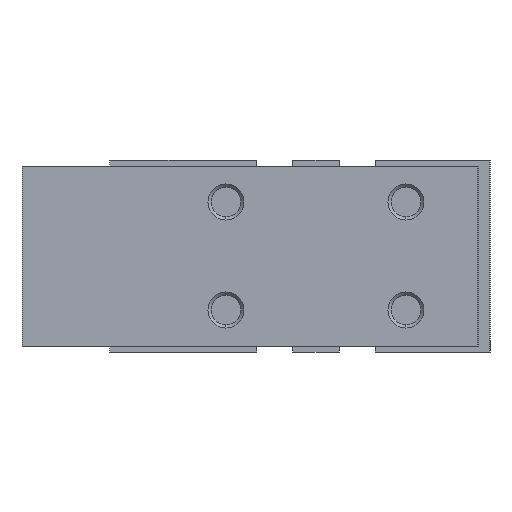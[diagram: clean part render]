
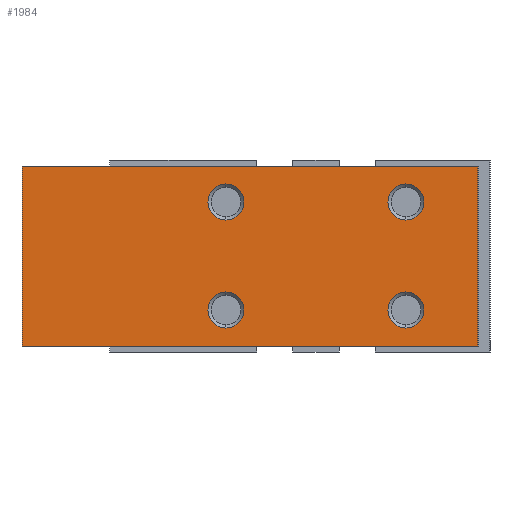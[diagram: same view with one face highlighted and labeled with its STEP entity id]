
A CAD part, left-side view. The second image highlights one B-rep face of the part: STEP entity #1984.
In plain terms, the highlighted planar face has unit normal (-1, 0, 0).
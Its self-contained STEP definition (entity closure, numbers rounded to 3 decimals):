
#174 = VERTEX_POINT ( 'NONE', #1343 ) ;
#200 = DIRECTION ( 'NONE',  ( -1., 0., 0. ) ) ;
#246 = AXIS2_PLACEMENT_3D ( 'NONE', #5130, #4641, #3161 ) ;
#358 = CARTESIAN_POINT ( 'NONE',  ( -8.5, 7.5, -6. ) ) ;
#393 = EDGE_CURVE ( 'NONE', #2240, #3478, #5718, .T. ) ;
#480 = VECTOR ( 'NONE', #819, 1000. ) ;
#506 = ORIENTED_EDGE ( 'NONE', *, *, #393, .F. ) ;
#558 = VERTEX_POINT ( 'NONE', #1246 ) ;
#577 = CARTESIAN_POINT ( 'NONE',  ( -8.5, -7.5, 4.5 ) ) ;
#594 = CIRCLE ( 'NONE', #3117, 1.5 ) ;
#715 = AXIS2_PLACEMENT_3D ( 'NONE', #577, #2426, #4282 ) ;
#819 = DIRECTION ( 'NONE',  ( 0., 0., -1. ) ) ;
#875 = AXIS2_PLACEMENT_3D ( 'NONE', #3981, #1718, #3155 ) ;
#953 = AXIS2_PLACEMENT_3D ( 'NONE', #2453, #3309, #4309 ) ;
#981 = ORIENTED_EDGE ( 'NONE', *, *, #4921, .F. ) ;
#1051 = CIRCLE ( 'NONE', #953, 1.5 ) ;
#1071 = ORIENTED_EDGE ( 'NONE', *, *, #1358, .F. ) ;
#1139 = CARTESIAN_POINT ( 'NONE',  ( -8.5, 7.5, -4.5 ) ) ;
#1144 = AXIS2_PLACEMENT_3D ( 'NONE', #5859, #3972, #3061 ) ;
#1246 = CARTESIAN_POINT ( 'NONE',  ( -8.5, -7.5, -6. ) ) ;
#1311 = VERTEX_POINT ( 'NONE', #3269 ) ;
#1337 = EDGE_LOOP ( 'NONE', ( #4047, #2365, #1522, #2679 ) ) ;
#1343 = CARTESIAN_POINT ( 'NONE',  ( -8.5, 24.5, -7.5 ) ) ;
#1358 = EDGE_CURVE ( 'NONE', #5589, #3227, #594, .T. ) ;
#1420 = DIRECTION ( 'NONE',  ( 0., 0., 1. ) ) ;
#1511 = CARTESIAN_POINT ( 'NONE',  ( -8.5, 24.5, 7.5 ) ) ;
#1522 = ORIENTED_EDGE ( 'NONE', *, *, #4621, .F. ) ;
#1525 = CIRCLE ( 'NONE', #1144, 1.5 ) ;
#1537 = AXIS2_PLACEMENT_3D ( 'NONE', #3349, #200, #3899 ) ;
#1611 = CARTESIAN_POINT ( 'NONE',  ( -8.5, -7.5, -3. ) ) ;
#1718 = DIRECTION ( 'NONE',  ( 1., 0., 0. ) ) ;
#1898 = LINE ( 'NONE', #1511, #3666 ) ;
#1916 = ORIENTED_EDGE ( 'NONE', *, *, #5095, .F. ) ;
#1918 = CIRCLE ( 'NONE', #1537, 1.5 ) ;
#1963 = CARTESIAN_POINT ( 'NONE',  ( -8.5, 7.5, 3. ) ) ;
#1984 = ADVANCED_FACE ( 'NONE', ( #3633, #4946, #5896, #2694, #2210 ), #4462, .F. ) ;
#1994 = CARTESIAN_POINT ( 'NONE',  ( -8.5, -7.5, 4.5 ) ) ;
#2053 = DIRECTION ( 'NONE',  ( -1., 0., 0. ) ) ;
#2210 = FACE_BOUND ( 'NONE', #3084, .T. ) ;
#2223 = AXIS2_PLACEMENT_3D ( 'NONE', #1994, #4244, #1420 ) ;
#2240 = VERTEX_POINT ( 'NONE', #5794 ) ;
#2287 = CARTESIAN_POINT ( 'NONE',  ( -8.5, -7.5, 3. ) ) ;
#2365 = ORIENTED_EDGE ( 'NONE', *, *, #3395, .F. ) ;
#2377 = CARTESIAN_POINT ( 'NONE',  ( -8.5, -13.5, 7.5 ) ) ;
#2426 = DIRECTION ( 'NONE',  ( -1., 0., 0. ) ) ;
#2453 = CARTESIAN_POINT ( 'NONE',  ( -8.5, 7.5, -4.5 ) ) ;
#2532 = DIRECTION ( 'NONE',  ( 0., -1., 0. ) ) ;
#2646 = CARTESIAN_POINT ( 'NONE',  ( -8.5, 7.5, -3. ) ) ;
#2679 = ORIENTED_EDGE ( 'NONE', *, *, #3499, .T. ) ;
#2694 = FACE_BOUND ( 'NONE', #4902, .T. ) ;
#2730 = EDGE_CURVE ( 'NONE', #174, #5086, #4290, .T. ) ;
#2732 = EDGE_CURVE ( 'NONE', #3478, #2240, #1918, .T. ) ;
#2791 = CIRCLE ( 'NONE', #2223, 1.5 ) ;
#2846 = ORIENTED_EDGE ( 'NONE', *, *, #2732, .F. ) ;
#2980 = DIRECTION ( 'NONE',  ( 0., 0., 1. ) ) ;
#3061 = DIRECTION ( 'NONE',  ( 0., 0., 1. ) ) ;
#3084 = EDGE_LOOP ( 'NONE', ( #506, #2846 ) ) ;
#3117 = AXIS2_PLACEMENT_3D ( 'NONE', #1139, #2053, #4330 ) ;
#3155 = DIRECTION ( 'NONE',  ( 0., 1., 0. ) ) ;
#3161 = DIRECTION ( 'NONE',  ( 0., 0., 1. ) ) ;
#3162 = CARTESIAN_POINT ( 'NONE',  ( -8.5, 24.5, 7.5 ) ) ;
#3202 = AXIS2_PLACEMENT_3D ( 'NONE', #5808, #3459, #2980 ) ;
#3227 = VERTEX_POINT ( 'NONE', #2646 ) ;
#3232 = VERTEX_POINT ( 'NONE', #1611 ) ;
#3239 = CIRCLE ( 'NONE', #715, 1.5 ) ;
#3269 = CARTESIAN_POINT ( 'NONE',  ( -8.5, -7.5, 6. ) ) ;
#3273 = ORIENTED_EDGE ( 'NONE', *, *, #3471, .F. ) ;
#3309 = DIRECTION ( 'NONE',  ( -1., 0., 0. ) ) ;
#3311 = VERTEX_POINT ( 'NONE', #3162 ) ;
#3349 = CARTESIAN_POINT ( 'NONE',  ( -8.5, 7.5, 4.5 ) ) ;
#3395 = EDGE_CURVE ( 'NONE', #3879, #5086, #3704, .T. ) ;
#3407 = EDGE_LOOP ( 'NONE', ( #3273, #981 ) ) ;
#3459 = DIRECTION ( 'NONE',  ( -1., 0., 0. ) ) ;
#3471 = EDGE_CURVE ( 'NONE', #1311, #4723, #2791, .T. ) ;
#3478 = VERTEX_POINT ( 'NONE', #1963 ) ;
#3499 = EDGE_CURVE ( 'NONE', #3311, #174, #1898, .T. ) ;
#3560 = EDGE_CURVE ( 'NONE', #3227, #5589, #1051, .T. ) ;
#3633 = FACE_OUTER_BOUND ( 'NONE', #1337, .T. ) ;
#3666 = VECTOR ( 'NONE', #5614, 1000. ) ;
#3704 = LINE ( 'NONE', #5936, #480 ) ;
#3804 = CARTESIAN_POINT ( 'NONE',  ( -8.5, 24.5, -7.5 ) ) ;
#3879 = VERTEX_POINT ( 'NONE', #2377 ) ;
#3899 = DIRECTION ( 'NONE',  ( 0., 0., 1. ) ) ;
#3972 = DIRECTION ( 'NONE',  ( -1., 0., 0. ) ) ;
#3975 = VECTOR ( 'NONE', #4351, 1000. ) ;
#3981 = CARTESIAN_POINT ( 'NONE',  ( -8.5, 24.5, 7.5 ) ) ;
#3997 = CARTESIAN_POINT ( 'NONE',  ( -8.5, 24.5, 7.5 ) ) ;
#4019 = CIRCLE ( 'NONE', #246, 1.5 ) ;
#4047 = ORIENTED_EDGE ( 'NONE', *, *, #2730, .T. ) ;
#4195 = EDGE_CURVE ( 'NONE', #558, #3232, #1525, .T. ) ;
#4244 = DIRECTION ( 'NONE',  ( -1., 0., 0. ) ) ;
#4282 = DIRECTION ( 'NONE',  ( 0., 0., 1. ) ) ;
#4290 = LINE ( 'NONE', #3804, #3975 ) ;
#4309 = DIRECTION ( 'NONE',  ( 0., 0., 1. ) ) ;
#4330 = DIRECTION ( 'NONE',  ( 0., 0., 1. ) ) ;
#4351 = DIRECTION ( 'NONE',  ( 0., -1., 0. ) ) ;
#4462 = PLANE ( 'NONE',  #875 ) ;
#4621 = EDGE_CURVE ( 'NONE', #3311, #3879, #4814, .T. ) ;
#4641 = DIRECTION ( 'NONE',  ( -1., 0., 0. ) ) ;
#4723 = VERTEX_POINT ( 'NONE', #2287 ) ;
#4814 = LINE ( 'NONE', #3997, #4986 ) ;
#4902 = EDGE_LOOP ( 'NONE', ( #1916, #5172 ) ) ;
#4921 = EDGE_CURVE ( 'NONE', #4723, #1311, #3239, .T. ) ;
#4946 = FACE_BOUND ( 'NONE', #5980, .T. ) ;
#4986 = VECTOR ( 'NONE', #2532, 1000. ) ;
#5086 = VERTEX_POINT ( 'NONE', #5560 ) ;
#5093 = ORIENTED_EDGE ( 'NONE', *, *, #3560, .F. ) ;
#5095 = EDGE_CURVE ( 'NONE', #3232, #558, #4019, .T. ) ;
#5130 = CARTESIAN_POINT ( 'NONE',  ( -8.5, -7.5, -4.5 ) ) ;
#5172 = ORIENTED_EDGE ( 'NONE', *, *, #4195, .F. ) ;
#5560 = CARTESIAN_POINT ( 'NONE',  ( -8.5, -13.5, -7.5 ) ) ;
#5589 = VERTEX_POINT ( 'NONE', #358 ) ;
#5614 = DIRECTION ( 'NONE',  ( 0., 0., -1. ) ) ;
#5718 = CIRCLE ( 'NONE', #3202, 1.5 ) ;
#5794 = CARTESIAN_POINT ( 'NONE',  ( -8.5, 7.5, 6. ) ) ;
#5808 = CARTESIAN_POINT ( 'NONE',  ( -8.5, 7.5, 4.5 ) ) ;
#5859 = CARTESIAN_POINT ( 'NONE',  ( -8.5, -7.5, -4.5 ) ) ;
#5896 = FACE_BOUND ( 'NONE', #3407, .T. ) ;
#5936 = CARTESIAN_POINT ( 'NONE',  ( -8.5, -13.5, 7.5 ) ) ;
#5980 = EDGE_LOOP ( 'NONE', ( #5093, #1071 ) ) ;
